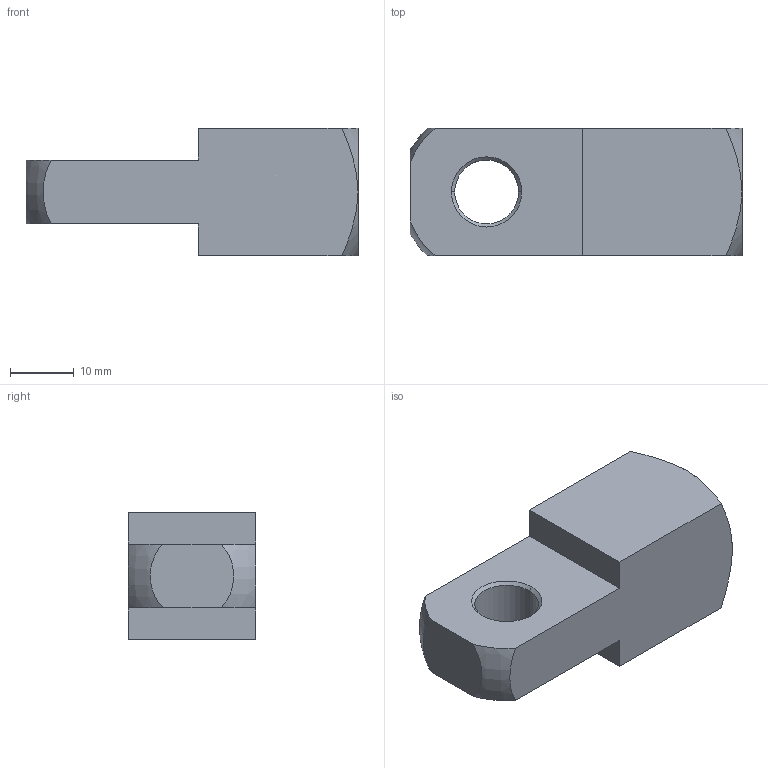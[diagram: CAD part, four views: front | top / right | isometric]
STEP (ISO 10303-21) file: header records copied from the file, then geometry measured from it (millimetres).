
FILE_DESCRIPTION (( 'STEP AP203' ), '1' );
FILE_NAME ('65653.W1011.step', '2014-01-22T12:17:04', ( 'User' ), ( '' ), 'SwSTEP 2.0', 'SolidWorks 2009', '' );
FILE_SCHEMA (( 'CONFIG_CONTROL_DESIGN' ));
Length unit declared in the file: millimetre
Products named in the file (1): 65653.W1011
Bounding box: 52 x 20 x 20 mm (x, y, z)
Volume: 12646.8 mm3; surface area: 5127.4 mm2
Topology: 1 solids, 1 shells, 31 faces, 74 edges, 45 vertices
Faces by surface type: cone 12, plane 11, cylinder 6, torus 2
Entity records: 1087 total; most frequent: CARTESIAN_POINT 297, DIRECTION 152, ORIENTED_EDGE 144, EDGE_CURVE 72, AXIS2_PLACEMENT_3D 60, VERTEX_POINT 45, EDGE_LOOP 35, VECTOR 32
